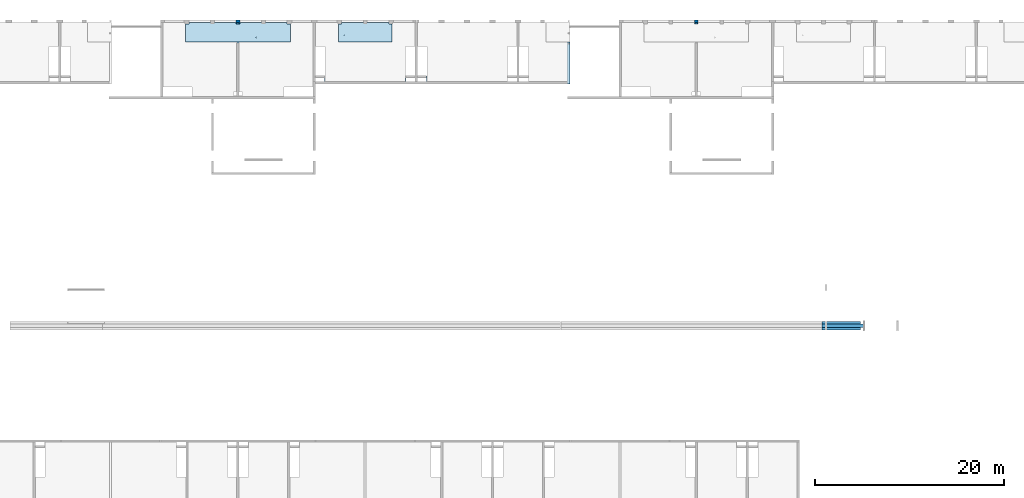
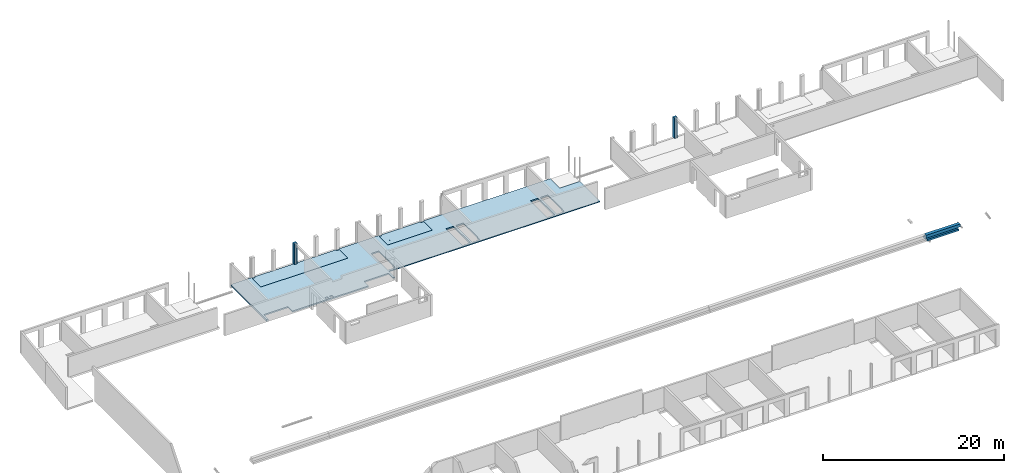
# One storey, part 20 of 22: 3 slabs, 2 columns, 1 beam.
"""IFC2X3 building model written with IfcOpenShell, lengths in millimetres."""

from ifc_helpers import new_model, entity, si_unit, converted_unit, derived_unit, direction, frame, origin, place, context, subcontext, project, spatial, faceted_brep, source, transform, mapped, material, type_object, type_shapes, element, save


model = new_model("IFC2X3")

# Units and contexts
model_context = context("Model", 3, precision=0.01, world=origin(), true_north=direction((6.12303176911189e-17, 1.0)))
body_context = subcontext(model_context, "Body", "Model", "MODEL_VIEW")
ifc_project = project(units=[si_unit("LENGTHUNIT", "METRE", prefix="MILLI"), si_unit("AREAUNIT", "SQUARE_METRE"), si_unit("VOLUMEUNIT", "CUBIC_METRE"), converted_unit("PLANEANGLEUNIT", "DEGREE", entity("IfcRatioMeasure", 0.0174532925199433), si_unit("PLANEANGLEUNIT", "RADIAN"), dimensions=[0, 0, 0, 0, 0, 0, 0]), si_unit("MASSUNIT", "GRAM", prefix="KILO"), derived_unit("MASSDENSITYUNIT", [(si_unit("MASSUNIT", "GRAM", prefix="KILO"), 1), (si_unit("LENGTHUNIT", "METRE"), -3)]), si_unit("TIMEUNIT", "SECOND"), si_unit("FREQUENCYUNIT", "HERTZ"), si_unit("THERMODYNAMICTEMPERATUREUNIT", "DEGREE_CELSIUS"), derived_unit("THERMALTRANSMITTANCEUNIT", [(si_unit("MASSUNIT", "GRAM", prefix="KILO"), 1), (si_unit("THERMODYNAMICTEMPERATUREUNIT", "KELVIN"), -1), (si_unit("TIMEUNIT", "SECOND"), -3)]), derived_unit("VOLUMETRICFLOWRATEUNIT", [(si_unit("LENGTHUNIT", "METRE"), 3), (si_unit("TIMEUNIT", "SECOND"), -1)]), si_unit("ELECTRICCURRENTUNIT", "AMPERE"), si_unit("ELECTRICVOLTAGEUNIT", "VOLT"), si_unit("POWERUNIT", "WATT"), si_unit("FORCEUNIT", "NEWTON", prefix="KILO"), si_unit("ILLUMINANCEUNIT", "LUX"), si_unit("LUMINOUSFLUXUNIT", "LUMEN"), si_unit("LUMINOUSINTENSITYUNIT", "CANDELA"), derived_unit("USERDEFINED", [(si_unit("MASSUNIT", "GRAM", prefix="KILO"), -1), (si_unit("LENGTHUNIT", "METRE"), -2), (si_unit("TIMEUNIT", "SECOND"), 3), (si_unit("LUMINOUSFLUXUNIT", "LUMEN"), 1)]), derived_unit("LINEARVELOCITYUNIT", [(si_unit("LENGTHUNIT", "METRE"), 1), (si_unit("TIMEUNIT", "SECOND"), -1)]), si_unit("PRESSUREUNIT", "PASCAL"), derived_unit("USERDEFINED", [(si_unit("LENGTHUNIT", "METRE"), -2), (si_unit("MASSUNIT", "GRAM", prefix="KILO"), 1), (si_unit("TIMEUNIT", "SECOND"), -2)])], contexts=[model_context])

# Site, building, storey
site_placement = place(None, origin())
site = spatial("IfcSite", under=ifc_project, at=site_placement, Name="Default", CompositionType="ELEMENT")
building_placement = place(site_placement, origin())
building = spatial("IfcBuilding", under=site, at=building_placement, Name="niet gebruiken", CompositionType="ELEMENT")
storey_placement = place(building_placement, frame((0.0, 0.0, 9630.0)))
storey = spatial("IfcBuildingStorey", under=building, at=storey_placement, Name="03 derde verdieping", CompositionType="ELEMENT", Elevation=9630.00000000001)

# Columns
ifc_material_1 = material(Name="NLRS_f2_beton ihwg")
column_type_1 = type_object("IfcColumnType", Name="410x410", PredefinedType="COLUMN", material=ifc_material_1)
shared_shape_1 = source(origin(), body_context, "Body", "Brep", [
    faceted_brep([(0.0, 410.0, 2740.0), (0.0, 0.0, 2740.0), (80.0, 0.0, 2740.0), (80.0, 160.0, 2740.0), (330.0, 160.0, 2740.0), (330.0, 0.0, 2740.0), (410.0, 0.0, 2740.0), (410.0, 410.0, 2740.0), (0.0, 410.0, 0.0), (410.0, 410.0, 0.0), (410.0, 0.0, 0.0), (0.0, 0.0, 0.0), (330.0, 0.0, 2460.0), (330.0, 0.0, 20.0), (80.0, 0.0, 20.0), (80.0, 0.0, 2460.0), (330.0, 160.0, 20.0), (80.0, 160.0, 20.0)], [[[0, 1, 2, 3, 4, 5, 6, 7]], [[8, 9, 10, 11]], [[1, 0, 8, 11]], [[11, 10, 6, 5, 12, 13, 14, 15, 2, 1]], [[7, 6, 10, 9]], [[0, 7, 9, 8]], [[4, 16, 13, 12, 5]], [[17, 3, 2, 15, 14]], [[13, 16, 17, 14]], [[16, 4, 3, 17]]]),
])
type_shapes(column_type_1, [shared_shape_1])
column_1_placement = place(storey_placement, frame((40295.0, 52846.0, -110.0)))
element("IfcColumn", 1, at=column_1_placement, inside=storey, type_object=column_type_1, material=ifc_material_1, Name="NLRS_28.11_SCO_TLB_beton kolom ihwg_gen:410x410", ObjectType="410x410", context=body_context, shape_type="MappedRepresentation", body=[
    mapped(shared_shape_1, transform((0.0, 0.0, 0.0), scale=1.0)),
])
column_type_2 = type_object("IfcColumnType", Name="410x410", PredefinedType="COLUMN", material=ifc_material_1)
shared_shape_2 = source(origin(), body_context, "Body", "Brep", [
    faceted_brep([(0.0, 410.0, 2740.0), (0.0, 0.0, 2740.0), (80.0, 0.0, 2740.0), (80.0, 160.0, 2740.0), (330.0, 160.0, 2740.0), (330.0, 0.0, 2740.0), (410.0, 0.0, 2740.0), (410.0, 410.0, 2740.0), (0.0, 410.0, 0.0), (410.0, 410.0, 0.0), (410.0, 0.0, 0.0), (0.0, 0.0, 0.0), (0.0, 410.0, 2640.0), (330.0, 0.0, 2460.0), (330.0, 0.0, 20.0), (80.0, 0.0, 20.0), (80.0, 0.0, 2460.0), (410.0, 410.0, 2640.0), (330.0, 160.0, 20.0), (80.0, 160.0, 20.0)], [[[0, 1, 2, 3, 4, 5, 6, 7]], [[8, 9, 10, 11]], [[1, 0, 12, 8, 11]], [[11, 10, 6, 5, 13, 14, 15, 16, 2, 1]], [[7, 6, 10, 9, 17]], [[0, 7, 17, 9, 8, 12]], [[4, 18, 14, 13, 5]], [[19, 3, 2, 16, 15]], [[18, 4, 3, 19]], [[14, 18, 19, 15]]]),
])
type_shapes(column_type_2, [shared_shape_2])
column_2_placement = place(storey_placement, frame((88895.0, 52846.0, -110.0)))
element("IfcColumn", 2, at=column_2_placement, inside=storey, type_object=column_type_2, material=ifc_material_1, Name="NLRS_28.11_SCO_TLB_beton kolom ihwg_gen:410x410", ObjectType="410x410", context=body_context, shape_type="MappedRepresentation", body=[
    mapped(shared_shape_2, transform((0.0, 0.0, 0.0), scale=1.0)),
])

# Beam
ifc_material_2 = material(Name="NLRS_f2_beton prefab")
beam_type = type_object("IfcBeamType", Name="NLRS_28.11_SF_WPB_prefabbeton balk dubbele sponning_gen:900x660/250x410/250x410", PredefinedType="BEAM")
beam_placement = place(storey_placement, frame((102455.0, 20396.0, 950.0)))
element("IfcBeam", 3, at=beam_placement, inside=storey, type_object=beam_type, material=ifc_material_2, Name="NLRS_28.11_SF_WPB_prefabbeton balk dubbele sponning_gen:900x660/250x410/250x410", ObjectType="NLRS_28.11_SF_WPB_prefabbeton balk dubbele sponning_gen:900x660/250x410/250x410", context=body_context, shape_type="Brep", body=[
    faceted_brep([(0.0, 650.0, 250.0), (0.0, 900.0, 250.0), (0.0, 900.0, 0.0), (0.0, 0.0, 0.0), (0.0, 0.0, 250.0), (0.0, 250.0, 250.0), (0.0, 250.0, 660.0), (0.0, 650.0, 660.0), (4050.0, 900.0, 250.0), (4050.0, 900.0, 0.0), (270.0, 900.0, 0.0), (270.0, 900.0, 240.0), (20.0, 900.0, 240.0), (20.0, 900.0, 0.0), (4370.0, 650.0, 660.0), (4370.0, 250.0, 660.0), (4370.0, 250.0, 270.0), (4370.0, 650.0, 270.0), (4050.0, 250.0, 250.0), (4050.0, 250.0, 270.0), (4050.0, 0.0, 250.0), (4050.0, 650.0, 270.0), (4050.0, 650.0, 250.0), (4050.0, 0.0, 0.0), (20.0, 670.0, 0.0), (270.0, 670.0, 0.0), (20.0, 670.0, 240.0), (270.0, 670.0, 240.0)], [[[0, 1, 2, 3, 4, 5, 6, 7]], [[2, 1, 8, 9, 10, 11, 12, 13]], [[14, 15, 16, 17]], [[15, 14, 7, 6]], [[6, 5, 18, 19, 16, 15]], [[5, 4, 20, 18]], [[0, 7, 14, 17, 21, 22]], [[1, 0, 22, 8]], [[4, 3, 23, 20]], [[3, 2, 13, 24, 25, 10, 9, 23]], [[12, 26, 24, 13]], [[25, 27, 11, 10]], [[26, 27, 25, 24]], [[27, 26, 12, 11]], [[19, 21, 17, 16]], [[21, 19, 18, 20, 23, 9, 8, 22]]]),
])

# Slabs
slab_1_placement = place(storey_placement, origin())
element("IfcSlab", 4, at=slab_1_placement, inside=storey, Name="Floor:NLRS_23.21_FL_breedplaat d=70/250_schil apart_gen", ObjectType="Floor:NLRS_23.21_FL_breedplaat d=70/250_schil apart_gen", PredefinedType="FLOOR", context=body_context, shape_type="Brep", body=[
    faceted_brep([(56515.0, 53006.0, -340.0), (56885.0, 53006.0, -340.0), (56885.0, 52866.0, -340.0), (56515.0, 52866.0, -340.0), (32300.0, 53006.0, -90.0), (32300.0, 45156.0, -90.0), (32550.0, 45156.0, -90.0), (32550.0, 46156.0, -90.0), (35650.0, 46156.0, -90.0), (35650.0, 45156.0, -90.0), (38915.0, 45156.0, -90.0), (39115.0, 45156.0, -90.0), (42665.0, 45156.0, -90.0), (42865.0, 45156.0, -90.0), (45375.0, 45156.0, -90.0), (45375.0, 46156.0, -90.0), (48475.0, 46156.0, -90.0), (48475.0, 45156.0, -90.0), (48725.0, 45156.0, -90.0), (48725.0, 46496.0, -90.0), (75450.0, 46496.0, -90.0), (75700.0, 46496.0, -90.0), (75700.0, 50926.0, -90.0), (73145.0, 50926.0, -90.0), (73145.0, 53006.0, -90.0), (59380.0, 53006.0, -90.0), (56495.0, 53006.0, -90.0), (56495.0, 52846.0, -90.0), (56855.0, 52846.0, -90.0), (56855.0, 50926.0, -90.0), (51145.0, 50926.0, -90.0), (51145.0, 52846.0, -90.0), (51505.0, 52846.0, -90.0), (51505.0, 53006.0, -90.0), (48600.0, 53006.0, -90.0), (45695.0, 53006.0, -90.0), (45695.0, 52846.0, -90.0), (46055.0, 52846.0, -90.0), (46055.0, 50926.0, -90.0), (34945.0, 50926.0, -90.0), (34945.0, 52846.0, -90.0), (35305.0, 52846.0, -90.0), (35305.0, 53006.0, -90.0), (71295.0, 47326.0, -90.0), (71295.0, 46746.0, -90.0), (70325.0, 46746.0, -90.0), (70325.0, 50426.0, -90.0), (71325.0, 50426.0, -90.0), (71325.0, 47326.0, -90.0), (60495.0, 47326.0, -90.0), (60495.0, 46746.0, -90.0), (59525.0, 46746.0, -90.0), (59525.0, 50426.0, -90.0), (60525.0, 50426.0, -90.0), (60525.0, 47326.0, -90.0), (49695.0, 47326.0, -90.0), (49695.0, 46746.0, -90.0), (48725.0, 46746.0, -90.0), (48725.0, 50426.0, -90.0), (49725.0, 50426.0, -90.0), (49725.0, 47326.0, -90.0), (70075.0, 46746.0, -90.0), (69105.0, 46746.0, -90.0), (69105.0, 47326.0, -90.0), (69075.0, 47326.0, -90.0), (69075.0, 50426.0, -90.0), (70075.0, 50426.0, -90.0), (59275.0, 46746.0, -90.0), (58305.0, 46746.0, -90.0), (58305.0, 47326.0, -90.0), (58275.0, 47326.0, -90.0), (58275.0, 50426.0, -90.0), (59275.0, 50426.0, -90.0), (40025.0, 45606.0, -90.0), (40375.0, 45606.0, -90.0), (40375.0, 45256.0, -90.0), (40025.0, 45256.0, -90.0), (40625.0, 45606.0, -90.0), (40975.0, 45606.0, -90.0), (40975.0, 45256.0, -90.0), (40625.0, 45256.0, -90.0), (48475.0, 45156.0, -220.0), (48725.0, 45156.0, -220.0), (32300.0, 53006.0, -340.0), (32300.0, 45156.0, -340.0), (35305.0, 53006.0, -110.0), (35305.0, 53006.0, -270.0), (35285.0, 53006.0, -270.0), (35285.0, 53006.0, -340.0), (34915.0, 53006.0, -340.0), (34915.0, 53006.0, -270.0), (32530.0, 53006.0, -270.0), (32530.0, 53006.0, -340.0), (34945.0, 50926.0, -110.0), (34945.0, 50926.0, -270.0), (34945.0, 52846.0, -270.0), (34945.0, 52846.0, -110.0), (46055.0, 52846.0, -110.0), (46055.0, 52846.0, -270.0), (46055.0, 50926.0, -270.0), (46055.0, 50926.0, -110.0), (48600.0, 53006.0, -340.0), (48495.0, 53006.0, -340.0), (48495.0, 53006.0, -270.0), (46085.0, 53006.0, -270.0), (46085.0, 53006.0, -340.0), (45715.0, 53006.0, -340.0), (45715.0, 53006.0, -270.0), (45695.0, 53006.0, -270.0), (45695.0, 53006.0, -110.0), (51505.0, 53006.0, -270.0), (51485.0, 53006.0, -270.0), (51485.0, 53006.0, -340.0), (51115.0, 53006.0, -340.0), (51115.0, 53006.0, -270.0), (48705.0, 53006.0, -270.0), (48705.0, 53006.0, -340.0), (51145.0, 50926.0, -270.0), (51145.0, 52846.0, -270.0), (56855.0, 50926.0, -270.0), (56855.0, 52846.0, -270.0), (73145.0, 53006.0, -110.0), (73145.0, 53006.0, -340.0), (59380.0, 53006.0, -340.0), (59295.0, 53006.0, -340.0), (59295.0, 53006.0, -270.0), (56885.0, 53006.0, -270.0), (56515.0, 53006.0, -270.0), (56495.0, 53006.0, -270.0), (73145.0, 50926.0, -110.0), (73145.0, 50926.0, -270.0), (73145.0, 52986.0, -270.0), (73145.0, 52986.0, -340.0), (75700.0, 50926.0, -110.0), (75700.0, 50926.0, -340.0), (75470.0, 50926.0, -340.0), (75470.0, 50926.0, -270.0), (75700.0, 46496.0, -220.0), (75700.0, 46746.0, -220.0), (75700.0, 46746.0, -340.0), (48725.0, 46496.0, -220.0), (48725.0, 46056.0, -220.0), (32550.0, 46156.0, -270.0), (35650.0, 46156.0, -270.0), (35650.0, 45156.0, -270.0), (32550.0, 45156.0, -340.0), (32550.0, 46156.0, -340.0), (45375.0, 46156.0, -270.0), (48474.9998491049, 46156.0, -270.0), (48475.0, 46156.0, -220.0), (45375.0, 45156.0, -270.0), (40605.0, 50926.0, -270.0), (40605.0, 50926.0, -340.0), (40395.0, 50926.0, -340.0), (40395.0, 50926.0, -270.0), (35305.0, 52846.0, -110.0), (35305.0, 52846.0, -270.0), (45695.0, 52846.0, -110.0), (45695.0, 52846.0, -270.0), (51505.0, 52846.0, -270.0), (56495.0, 52846.0, -270.0), (71295.0, 47326.0, -340.0), (71295.0, 46746.0, -340.0), (71295.0, 46746.0, -220.0), (70325.0, 46746.0, -220.0), (70325.0, 46746.0, -340.0), (70325.0, 50426.0, -340.0), (70325.0, 50426.0, -270.0), (70075.0, 50426.0, -270.0), (70075.0, 50426.0, -340.0), (70075.0, 46746.0, -340.0), (70075.0, 46746.0, -220.0), (69105.0, 46746.0, -220.0), (69105.0, 46746.0, -340.0), (69105.0, 47326.0, -340.0), (60495.0, 47326.0, -340.0), (60495.0, 46746.0, -340.0), (60495.0, 46746.0, -220.0), (59525.0, 46746.0, -220.0), (59525.0, 46746.0, -340.0), (59525.0, 50426.0, -340.0), (59525.0, 50426.0, -270.0), (59275.0, 50426.0, -270.0), (59275.0, 50426.0, -340.0), (59275.0, 46746.0, -340.0), (59275.0, 46746.0, -220.0), (58305.0, 46746.0, -220.0), (58305.0, 46746.0, -340.0), (58305.0, 47326.0, -340.0), (49695.0, 47326.0, -340.0), (49695.0, 46746.0, -340.0), (49695.0, 46746.0, -220.0), (48725.0, 46746.0, -220.0), (48725.0, 46746.0, -340.0), (48725.0, 50426.0, -340.0), (48725.0, 50426.0, -270.0), (49725.0, 50426.0, -270.0), (49725.0, 47326.0, -340.0), (49725.0, 47326.0, -270.0), (60525.0, 50426.0, -270.0), (60525.0, 47326.0, -340.0), (60525.0, 47326.0, -270.0), (58275.0, 50426.0, -270.0), (58275.0, 47326.0, -270.0), (58275.0, 47326.0, -340.0), (71325.0, 50426.0, -270.0), (71325.0, 47326.0, -340.0), (71325.0, 47326.0, -270.0), (69075.0, 50426.0, -270.0), (69075.0, 47326.0, -270.0), (69075.0, 47326.0, -340.0), (56515.0, 52866.0, -270.0), (56885.0, 52866.0, -270.0), (59295.0, 50426.0, -270.0), (58275.0, 46746.0, -270.0), (49725.0, 46746.0, -270.0), (48705.0, 50426.0, -270.0), (51115.0, 52866.0, -270.0), (51485.0, 52866.0, -270.0), (48705.0, 50426.0, -340.0), (49725.0, 46746.0, -340.0), (59295.0, 50426.0, -340.0), (58275.0, 46746.0, -340.0), (51115.0, 52866.0, -340.0), (51485.0, 52866.0, -340.0), (59505.0, 52986.0, -270.0), (70095.0, 52986.0, -270.0), (70095.0, 50426.0, -270.0), (69075.0, 46746.0, -270.0), (60525.0, 46746.0, -270.0), (59505.0, 50426.0, -270.0), (59505.0, 52986.0, -340.0), (70095.0, 52986.0, -340.0), (59505.0, 50426.0, -340.0), (60525.0, 46746.0, -340.0), (70095.0, 50426.0, -340.0), (69075.0, 46746.0, -340.0), (34915.0, 52866.0, -270.0), (35285.0, 52866.0, -270.0), (40395.0, 45606.0, -270.0), (40375.0, 45606.0, -270.0), (40025.0, 45606.0, -270.0), (40025.0, 45256.0, -270.0), (40375.0, 45256.0, -270.0), (40395.0, 45256.0, -270.0), (40395.0, 45156.0, -270.0), (37925.0, 45156.0, -270.0), (32530.0, 46156.0, -270.0), (40395.0, 45606.0, -340.0), (32530.0, 46156.0, -340.0), (34915.0, 52866.0, -340.0), (35285.0, 52866.0, -340.0), (40375.0, 45606.0, -340.0), (40395.0, 45256.0, -340.0), (40375.0, 45256.0, -340.0), (40395.0, 45156.0, -340.0), (40395.0, 45156.0, -310.0), (45715.0, 52866.0, -270.0), (46085.0, 52866.0, -270.0), (48495.0, 46746.0, -270.0), (48474.9998491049, 46746.0, -270.0), (48475.0, 46156.0, -270.0), (40605.0, 45156.0, -270.0), (40605.0, 45256.0, -270.0), (40625.0, 45256.0, -270.0), (40975.0, 45256.0, -270.0), (40975.0, 45606.0, -270.0), (40625.0, 45606.0, -270.0), (40605.0, 45606.0, -270.0), (40605.0, 45606.0, -340.0), (48495.0, 46746.0, -340.0), (46085.0, 52866.0, -340.0), (45715.0, 52866.0, -340.0), (40605.0, 45256.0, -340.0), (40605.0, 45156.0, -310.0), (40605.0, 45156.0, -340.0), (40625.0, 45256.0, -340.0), (40625.0, 45606.0, -340.0), (48474.9998491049, 46746.0, -220.0), (48474.9998491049, 46156.0, -220.0), (70305.0, 50426.0, -270.0), (70305.0, 52986.0, -270.0), (75470.0, 46746.0, -270.0), (71325.0, 46746.0, -270.0), (70305.0, 52986.0, -340.0), (70305.0, 50426.0, -340.0), (71325.0, 46746.0, -340.0), (75470.0, 46746.0, -340.0)], [[[0, 1, 2, 3]], [[4, 5, 6, 7, 8, 9, 10, 11, 12, 13, 14, 15, 16, 17, 18, 19, 20, 21, 22, 23, 24, 25, 26, 27, 28, 29, 30, 31, 32, 33, 34, 35, 36, 37, 38, 39, 40, 41, 42], [43, 44, 45, 46, 47, 48], [49, 50, 51, 52, 53, 54], [55, 56, 57, 58, 59, 60], [61, 62, 63, 64, 65, 66], [67, 68, 69, 70, 71, 72], [73, 74, 75, 76], [77, 78, 79, 80]], [[18, 17, 81, 82]], [[83, 84, 5, 4]], [[4, 42, 85, 86, 87, 88, 89, 90, 91, 92, 83]], [[40, 39, 93, 94, 95, 96]], [[38, 37, 97, 98, 99, 100]], [[35, 34, 101, 102, 103, 104, 105, 106, 107, 108, 109]], [[34, 33, 110, 111, 112, 113, 114, 115, 116, 101]], [[31, 30, 117, 118]], [[30, 29, 119, 117]], [[29, 28, 120, 119]], [[26, 25, 24, 121, 122, 123, 124, 125, 126, 1, 0, 127, 128]], [[24, 23, 129, 130, 131, 132, 122, 121]], [[23, 22, 133, 134, 135, 136, 130, 129]], [[22, 21, 137, 138, 139, 134, 133]], [[21, 20, 19, 140, 137]], [[19, 18, 82, 141, 140]], [[8, 7, 142, 143]], [[9, 8, 143, 144]], [[145, 146, 142, 7, 6]], [[16, 15, 147, 148, 149]], [[15, 14, 150, 147]], [[17, 16, 149, 81]], [[39, 38, 100, 99, 151, 152, 153, 154, 94, 93]], [[42, 41, 155, 156, 86, 85]], [[41, 40, 96, 95, 156, 155]], [[37, 36, 157, 158, 98, 97]], [[36, 35, 109, 108, 158, 157]], [[33, 32, 159, 110]], [[32, 31, 118, 159]], [[28, 27, 160, 120]], [[27, 26, 128, 160]], [[161, 162, 163, 44, 43]], [[45, 44, 163, 164]], [[165, 166, 167, 46, 45, 164]], [[61, 66, 168, 169, 170, 171]], [[62, 61, 171, 172]], [[173, 174, 63, 62, 172]], [[175, 176, 177, 50, 49]], [[51, 50, 177, 178]], [[179, 180, 181, 52, 51, 178]], [[67, 72, 182, 183, 184, 185]], [[68, 67, 185, 186]], [[187, 188, 69, 68, 186]], [[189, 190, 191, 56, 55]], [[57, 56, 191, 192]], [[193, 194, 195, 58, 57, 192]], [[59, 58, 195, 196]], [[197, 189, 55, 60, 198]], [[60, 59, 196, 198]], [[53, 52, 181, 199]], [[200, 175, 49, 54, 201]], [[54, 53, 199, 201]], [[72, 71, 202, 182]], [[71, 70, 203, 202]], [[188, 204, 203, 70, 69]], [[47, 46, 167, 205]], [[206, 161, 43, 48, 207]], [[48, 47, 205, 207]], [[66, 65, 208, 168]], [[65, 64, 209, 208]], [[174, 210, 209, 64, 63]], [[211, 212, 126, 125, 213, 182, 202, 203, 214, 215, 198, 196, 195, 216, 115, 114, 217, 218, 111, 110, 159, 118, 117, 119, 120, 160, 128, 127]], [[216, 219, 116, 115]], [[219, 216, 195, 194]], [[197, 198, 215, 220]], [[221, 213, 125, 124]], [[213, 221, 183, 182]], [[203, 204, 222, 214]], [[223, 217, 114, 113]], [[218, 217, 223, 224]], [[218, 224, 112, 111]], [[3, 211, 127, 0]], [[212, 211, 3, 2]], [[212, 2, 1, 126]], [[225, 226, 227, 168, 208, 209, 228, 229, 201, 199, 181, 230]], [[226, 225, 231, 232]], [[225, 230, 233, 231]], [[233, 230, 181, 180]], [[200, 201, 229, 234]], [[227, 226, 232, 235]], [[227, 235, 169, 168]], [[209, 210, 236, 228]], [[237, 238, 87, 86, 156, 95, 94, 154, 239, 240, 241, 242, 243, 244, 245, 246, 144, 143, 142, 247, 91, 90]], [[248, 239, 154, 153]], [[247, 249, 92, 91]], [[250, 237, 90, 89]], [[238, 237, 250, 251]], [[238, 251, 88, 87]], [[239, 248, 252, 240]], [[253, 244, 243, 254]], [[244, 253, 255, 256, 245]], [[249, 247, 142, 146]], [[257, 258, 104, 103, 259, 260, 261, 147, 150, 262, 263, 264, 265, 266, 267, 268, 151, 99, 98, 158, 108, 107]], [[268, 269, 152, 151]], [[103, 102, 270, 259]], [[258, 271, 105, 104]], [[258, 257, 272, 271]], [[272, 257, 107, 106]], [[273, 263, 262, 274, 275]], [[263, 273, 276, 264]], [[269, 268, 267, 277]], [[149, 278, 192, 191, 186, 185, 178, 177, 172, 171, 164, 163, 138, 137, 140, 141, 82, 81]], [[192, 278, 260, 259, 270, 193]], [[278, 279, 148, 260]], [[280, 281, 131, 130, 136, 282, 283, 207, 205, 167]], [[281, 284, 132, 131]], [[281, 280, 285, 284]], [[285, 280, 167, 166]], [[207, 283, 286, 206]], [[282, 136, 135, 287]], [[74, 73, 241, 240]], [[73, 76, 242, 241]], [[76, 75, 243, 242]], [[252, 254, 243, 75, 74, 240]], [[78, 77, 267, 266]], [[79, 78, 266, 265]], [[80, 79, 265, 264]], [[276, 277, 267, 77, 80, 264]], [[186, 191, 190, 220, 215, 214, 222, 187]], [[178, 185, 184, 179]], [[172, 177, 176, 234, 229, 228, 236, 173]], [[164, 171, 170, 165]], [[138, 163, 162, 286, 283, 282, 287, 139]], [[14, 13, 12, 11, 10, 9, 144, 246, 245, 256, 255, 275, 274, 262, 150]], [[5, 84, 145, 6]], [[113, 112, 224, 223]], [[106, 105, 271, 272]], [[89, 88, 251, 250]], [[134, 139, 287, 135]], [[180, 179, 184, 183, 221, 124, 123, 122, 132, 284, 285, 166, 165, 170, 169, 235, 232, 231, 233]], [[194, 193, 270, 102, 101, 116, 219]], [[188, 187, 222, 204]], [[174, 173, 236, 210]], [[162, 161, 206, 286]], [[176, 175, 200, 234]], [[190, 189, 197, 220]], [[248, 153, 152, 269, 277, 276, 273, 275, 255, 253, 254, 252]], [[84, 83, 92, 249, 146, 145]]]),
])
slab_2_placement = place(storey_placement, origin())
element("IfcSlab", 5, at=slab_2_placement, inside=storey, Name="Floor:NLRS_23.21_FL_breedplaat d=50/230_schil apart_gen", ObjectType="Floor:NLRS_23.21_FL_breedplaat d=50/230_schil apart_gen", PredefinedType="FLOOR", context=body_context, shape_type="Brep", body=[
    faceted_brep([(54185.0, 52866.0, -340.0), (53815.0, 52866.0, -340.0), (53815.0, 53006.0, -340.0), (54185.0, 53006.0, -340.0), (51505.0, 52846.0, -110.0), (51781.2499999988, 51688.4759526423, -110.0), (51790.6249999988, 51688.4759526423, -110.0), (51145.0, 52846.0, -110.0), (51800.0, 51688.4759526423, -110.0), (51809.3749999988, 51688.4759526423, -110.0), (51818.7499999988, 51688.4759526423, -110.0), (51823.4374999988, 51680.3569644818, -110.0), (51828.1249999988, 51672.2379763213, -110.0), (51832.8124999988, 51664.1189881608, -110.0), (51837.4999999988, 51656.0, -110.0), (56495.0, 52846.0, -110.0), (56495.0, 53006.0, -110.0), (51505.0, 53006.0, -110.0), (51776.051217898, 51679.4713979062, -110.0), (51770.8524357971, 51670.4668431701, -110.0), (51766.6762178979, 51663.2334215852, -110.0), (51762.4999999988, 51656.0, -110.0), (51145.0, 50926.0, -110.0), (51767.1874999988, 51647.8810118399, -110.0), (51771.8749999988, 51639.7620236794, -110.0), (51776.5624999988, 51631.6430355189, -110.0), (51781.2499999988, 51623.5240473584, -110.0), (51790.6249999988, 51623.5240473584, -110.0), (51800.0, 51623.5240473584, -110.0), (51809.3749999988, 51623.5240473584, -110.0), (51818.7499999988, 51623.5240473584, -110.0), (56855.0, 50926.0, -110.0), (56855.0, 52846.0, -110.0), (51833.3237821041, 51648.7665784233, -110.0), (51828.1249999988, 51639.7620236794, -110.0), (51823.4374999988, 51631.6430355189, -110.0), (51145.0, 52846.0, -270.0), (51145.0, 50926.0, -270.0), (53815.0, 53006.0, -270.0), (51505.0, 53006.0, -270.0), (56495.0, 53006.0, -270.0), (54185.0, 53006.0, -270.0), (56855.0, 50926.0, -270.0), (56855.0, 52846.0, -270.0), (51505.0, 52846.0, -270.0), (56495.0, 52846.0, -270.0), (53815.0, 52866.0, -270.0), (51818.7499999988, 51623.5240473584, -270.0), (51823.4374999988, 51631.6430355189, -270.0), (54185.0, 52866.0, -270.0), (51828.1249999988, 51639.7620236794, -270.0), (51832.8124999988, 51647.8810118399, -270.0), (51837.4999999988, 51656.0, -270.0), (51833.323781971, 51663.233421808, -270.0), (51829.1475639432, 51670.4668436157, -270.0), (51823.948781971, 51679.471398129, -270.0), (51818.7499999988, 51688.4759526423, -270.0), (51809.3749999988, 51623.5240473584, -270.0), (51800.0, 51623.5240473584, -270.0), (51790.6249999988, 51623.5240473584, -270.0), (51781.2499999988, 51623.5240473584, -270.0), (51776.0512178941, 51632.5286021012, -270.0), (51770.8524357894, 51641.533156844, -270.0), (51766.6762178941, 51648.7665784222, -270.0), (51762.4999999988, 51656.0, -270.0), (51781.2499999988, 51688.4759526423, -270.0), (51776.5624999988, 51680.3569644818, -270.0), (51771.8749999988, 51672.2379763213, -270.0), (51767.1874999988, 51664.1189881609, -270.0), (51809.3749999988, 51688.4759526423, -270.0), (51800.0, 51688.4759526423, -270.0), (51790.6249999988, 51688.4759526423, -270.0)], [[[0, 1, 2, 3]], [[4, 5, 6]], [[4, 7, 5]], [[4, 6, 8]], [[4, 8, 9]], [[4, 9, 10]], [[4, 10, 11]], [[4, 11, 12]], [[4, 12, 13]], [[4, 13, 14]], [[15, 4, 14]], [[15, 16, 4]], [[17, 4, 16]], [[7, 18, 5]], [[7, 19, 18]], [[7, 20, 19]], [[7, 21, 20]], [[21, 7, 22]], [[22, 23, 21]], [[22, 24, 23]], [[22, 25, 24]], [[22, 26, 25]], [[22, 27, 26]], [[22, 28, 27]], [[22, 29, 28]], [[22, 30, 29]], [[31, 30, 22]], [[32, 15, 31]], [[14, 31, 15]], [[31, 14, 33]], [[31, 33, 34]], [[31, 34, 35]], [[31, 35, 30]], [[36, 37, 22, 7]], [[38, 39, 17, 16, 40, 41, 3, 2]], [[42, 43, 32, 31]], [[37, 42, 31, 22]], [[44, 36, 7, 4]], [[43, 45, 15, 32]], [[39, 44, 4, 17]], [[45, 40, 16, 15]], [[46, 47, 48]], [[49, 47, 46]], [[46, 48, 50]], [[46, 50, 51]], [[46, 51, 52]], [[46, 52, 53]], [[46, 53, 54]], [[46, 54, 55]], [[46, 55, 56]], [[44, 46, 56]], [[44, 39, 46]], [[39, 38, 46]], [[47, 49, 42]], [[42, 49, 45]], [[49, 40, 45]], [[49, 41, 40]], [[45, 43, 42]], [[47, 42, 37]], [[37, 57, 47]], [[37, 58, 57]], [[37, 59, 58]], [[37, 60, 59]], [[37, 61, 60]], [[37, 62, 61]], [[37, 63, 62]], [[37, 64, 63]], [[36, 64, 37]], [[65, 36, 44]], [[36, 65, 66]], [[36, 66, 67]], [[36, 67, 68]], [[36, 68, 64]], [[44, 56, 69]], [[44, 69, 70]], [[44, 70, 71]], [[44, 71, 65]], [[46, 38, 2, 1]], [[49, 46, 1, 0]], [[41, 49, 0, 3]], [[61, 62, 63, 64, 21, 23, 24, 25, 26, 60]], [[28, 29, 30, 47, 57, 58, 59, 60, 26, 27]], [[47, 30, 35, 34, 33, 14, 52, 51, 50, 48]], [[54, 53, 52, 14, 13, 12, 11, 10, 56, 55]], [[9, 8, 6, 5, 65, 71, 70, 69, 56, 10]], [[66, 65, 5, 18, 19, 20, 21, 64, 68, 67]]]),
])
slab_3_placement = place(storey_placement, origin())
element("IfcSlab", 6, at=slab_3_placement, inside=storey, Name="Floor:NLRS_23.21_FL_breedplaat d=50/230_schil apart_gen", ObjectType="Floor:NLRS_23.21_FL_breedplaat d=50/230_schil apart_gen", PredefinedType="FLOOR", context=body_context, shape_type="Brep", body=[
    faceted_brep([(40395.0, 52866.0, -340.0), (40315.0, 52866.0, -340.0), (40315.0, 53006.0, -340.0), (40685.0, 53006.0, -340.0), (40685.0, 52866.0, -340.0), (40605.0, 52866.0, -340.0), (40605.0, 50926.0, -340.0), (40395.0, 50926.0, -340.0), (37615.0, 53006.0, -340.0), (37985.0, 53006.0, -340.0), (37985.0, 52866.0, -340.0), (37615.0, 52866.0, -340.0), (43015.0, 53006.0, -340.0), (43385.0, 53006.0, -340.0), (43385.0, 52866.0, -340.0), (43015.0, 52866.0, -340.0), (46055.0, 50926.0, -110.0), (42487.4999999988, 51406.0, -110.0), (42483.3237821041, 51398.7665784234, -110.0), (45695.0, 52846.0, -110.0), (46055.0, 52846.0, -110.0), (42478.1249999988, 51389.7620236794, -110.0), (42473.4374999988, 51381.643035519, -110.0), (42468.7499999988, 51373.5240473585, -110.0), (42459.3749999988, 51373.5240473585, -110.0), (42450.0, 51373.5240473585, -110.0), (42440.6249999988, 51373.5240473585, -110.0), (42431.2499999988, 51373.5240473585, -110.0), (34945.0, 50926.0, -110.0), (42482.8124999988, 51414.1189881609, -110.0), (42478.1249999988, 51422.2379763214, -110.0), (42473.4374999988, 51430.3569644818, -110.0), (42468.7499999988, 51438.4759526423, -110.0), (45695.0, 53006.0, -110.0), (42459.3749999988, 51438.4759526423, -110.0), (42450.0, 51438.4759526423, -110.0), (42440.6249999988, 51438.4759526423, -110.0), (42431.2499999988, 51438.4759526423, -110.0), (35305.0, 53006.0, -110.0), (42426.051217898, 51429.4713979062, -110.0), (42420.8524357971, 51420.4668431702, -110.0), (42416.676217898, 51413.2334215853, -110.0), (42412.4999999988, 51406.0, -110.0), (35305.0, 52846.0, -110.0), (34945.0, 52846.0, -110.0), (42417.1874999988, 51397.8810118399, -110.0), (42426.5624999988, 51381.643035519, -110.0), (42421.8749999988, 51389.7620236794, -110.0), (46055.0, 50926.0, -270.0), (46055.0, 52846.0, -270.0), (40605.0, 50926.0, -270.0), (34945.0, 50926.0, -270.0), (40395.0, 50926.0, -270.0), (34945.0, 52846.0, -270.0), (37615.0, 53006.0, -270.0), (35305.0, 53006.0, -270.0), (45695.0, 53006.0, -270.0), (43385.0, 53006.0, -270.0), (43015.0, 53006.0, -270.0), (40685.0, 53006.0, -270.0), (40315.0, 53006.0, -270.0), (37985.0, 53006.0, -270.0), (45695.0, 52846.0, -270.0), (35305.0, 52846.0, -270.0), (37615.0, 52866.0, -270.0), (37985.0, 52866.0, -270.0), (40315.0, 52866.0, -270.0), (40395.0, 52866.0, -270.0), (43385.0, 52866.0, -270.0), (42487.4999999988, 51406.0, -270.0), (42482.8124999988, 51397.8810118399, -270.0), (42478.1249999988, 51389.7620236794, -270.0), (42473.4374999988, 51381.643035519, -270.0), (42468.7499999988, 51373.5240473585, -270.0), (42459.3749999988, 51373.5240473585, -270.0), (42450.0, 51373.5240473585, -270.0), (42440.6249999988, 51373.5240473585, -270.0), (42431.2499999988, 51373.5240473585, -270.0), (42426.0512178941, 51382.5286021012, -270.0), (42420.8524357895, 51391.533156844, -270.0), (42416.6762178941, 51398.7665784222, -270.0), (42412.4999999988, 51406.0, -270.0), (40685.0, 52866.0, -270.0), (40605.0, 52866.0, -270.0), (42417.1874999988, 51414.1189881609, -270.0), (42421.8749999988, 51422.2379763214, -270.0), (42426.5624999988, 51430.3569644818, -270.0), (42431.2499999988, 51438.4759526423, -270.0), (43015.0, 52866.0, -270.0), (42468.7499999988, 51438.4759526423, -270.0), (42459.3749999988, 51438.4759526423, -270.0), (42450.0, 51438.4759526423, -270.0), (42440.6249999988, 51438.4759526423, -270.0), (42483.323781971, 51413.2334218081, -270.0), (42479.1475639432, 51420.4668436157, -270.0), (42473.948781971, 51429.471398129, -270.0)], [[[0, 1, 2, 3, 4, 5, 6, 7]], [[8, 9, 10, 11]], [[12, 13, 14, 15]], [[16, 17, 18]], [[17, 16, 19]], [[19, 16, 20]], [[16, 18, 21]], [[16, 21, 22]], [[16, 22, 23]], [[16, 23, 24]], [[16, 24, 25]], [[16, 25, 26]], [[16, 26, 27]], [[27, 28, 16]], [[19, 29, 17]], [[19, 30, 29]], [[19, 31, 30]], [[19, 32, 31]], [[33, 32, 19]], [[33, 34, 32]], [[33, 35, 34]], [[33, 36, 35]], [[33, 37, 36]], [[37, 33, 38]], [[38, 39, 37]], [[38, 40, 39]], [[38, 41, 40]], [[38, 42, 41]], [[42, 38, 43]], [[28, 42, 43]], [[43, 44, 28]], [[28, 45, 42]], [[28, 27, 46]], [[28, 46, 47]], [[28, 47, 45]], [[48, 49, 20, 16]], [[50, 48, 16, 28, 51, 52, 7, 6]], [[53, 51, 28, 44]], [[54, 55, 38, 33, 56, 57, 13, 12, 58, 59, 3, 2, 60, 61, 9, 8]], [[62, 56, 33, 19]], [[49, 62, 19, 20]], [[63, 53, 44, 43]], [[55, 63, 43, 38]], [[64, 65, 61, 60, 66, 67, 52, 51, 53, 63, 55, 54]], [[64, 65, 52]], [[51, 64, 52]], [[64, 51, 63]], [[55, 64, 63]], [[54, 64, 55]], [[66, 52, 65]], [[61, 66, 65]], [[61, 60, 66]], [[52, 66, 67]], [[53, 63, 51]], [[57, 56, 68]], [[62, 68, 56]], [[62, 48, 68]], [[62, 49, 48]], [[48, 69, 68]], [[48, 70, 69]], [[48, 71, 70]], [[48, 72, 71]], [[48, 73, 72]], [[48, 50, 73]], [[50, 74, 73]], [[50, 75, 74]], [[50, 76, 75]], [[50, 77, 76]], [[50, 78, 77]], [[50, 79, 78]], [[50, 80, 79]], [[50, 81, 80]], [[81, 50, 82]], [[83, 82, 50]], [[82, 84, 81]], [[82, 85, 84]], [[82, 86, 85]], [[82, 87, 86]], [[82, 88, 87]], [[82, 58, 88]], [[58, 82, 59]], [[88, 68, 89]], [[88, 89, 90]], [[88, 90, 91]], [[88, 91, 92]], [[88, 92, 87]], [[68, 69, 93]], [[68, 93, 94]], [[68, 94, 95]], [[68, 95, 89]], [[52, 67, 0, 7]], [[64, 54, 8, 11]], [[65, 64, 11, 10]], [[67, 66, 1, 0]], [[68, 88, 15, 14]], [[82, 83, 5, 4]], [[65, 10, 9, 61]], [[66, 60, 2, 1]], [[50, 6, 5, 83]], [[68, 14, 13, 57]], [[88, 58, 12, 15]], [[82, 4, 3, 59]], [[78, 79, 80, 81, 42, 45, 47, 46, 27, 77]], [[25, 24, 23, 73, 74, 75, 76, 77, 27, 26]], [[73, 23, 22, 21, 18, 17, 69, 70, 71, 72]], [[94, 93, 69, 17, 29, 30, 31, 32, 89, 95]], [[34, 35, 36, 37, 87, 92, 91, 90, 89, 32]], [[86, 87, 37, 39, 40, 41, 42, 81, 84, 85]]]),
])

save(model, "model.ifc")
